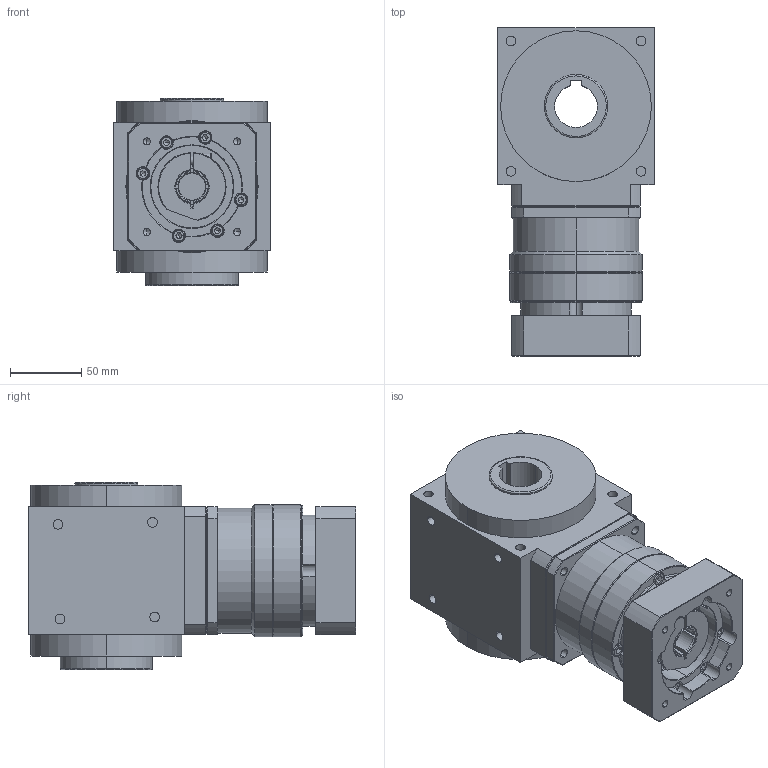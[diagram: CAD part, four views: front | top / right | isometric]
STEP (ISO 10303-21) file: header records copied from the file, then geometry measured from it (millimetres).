
FILE_DESCRIPTION (( 'STEP AP203' ), '1' );
FILE_NAME ('AAW110AS-L1-RFK 19-70-90-M6.STEP', '2024-12-24T05:44:46', ( '' ), ( '' ), 'SwSTEP 2.0', 'SolidWorks 2021', '' );
FILE_SCHEMA (( 'CONFIG_CONTROL_DESIGN' ));
Length unit declared in the file: millimetre
Products named in the file (3): AAW110AS-L1-RFK 19-70-90-M6; VRB-090-L1-S2-P1 19-70-90-M6; AAW110AS-RFK
Assembly tree (2 placements, depth 2):
  AAW110AS-L1-RFK 19-70-90-M6
    AAW110AS-RFK
    VRB-090-L1-S2-P1 19-70-90-M6
Bounding box: 110 x 230.5 x 131.5 mm (x, y, z)
Volume: 1977200.4 mm3; surface area: 212558.9 mm2
Topology: 28 solids, 28 shells, 857 faces, 2045 edges, 1270 vertices
Faces by surface type: plane 359, cylinder 319, cone 149, torus 26, bspline 4
Entity records: 25956 total; most frequent: CARTESIAN_POINT 5578, DIRECTION 4481, ORIENTED_EDGE 3986, EDGE_CURVE 1993, AXIS2_PLACEMENT_3D 1791, VERTEX_POINT 1270, EDGE_LOOP 975, CIRCLE 933
